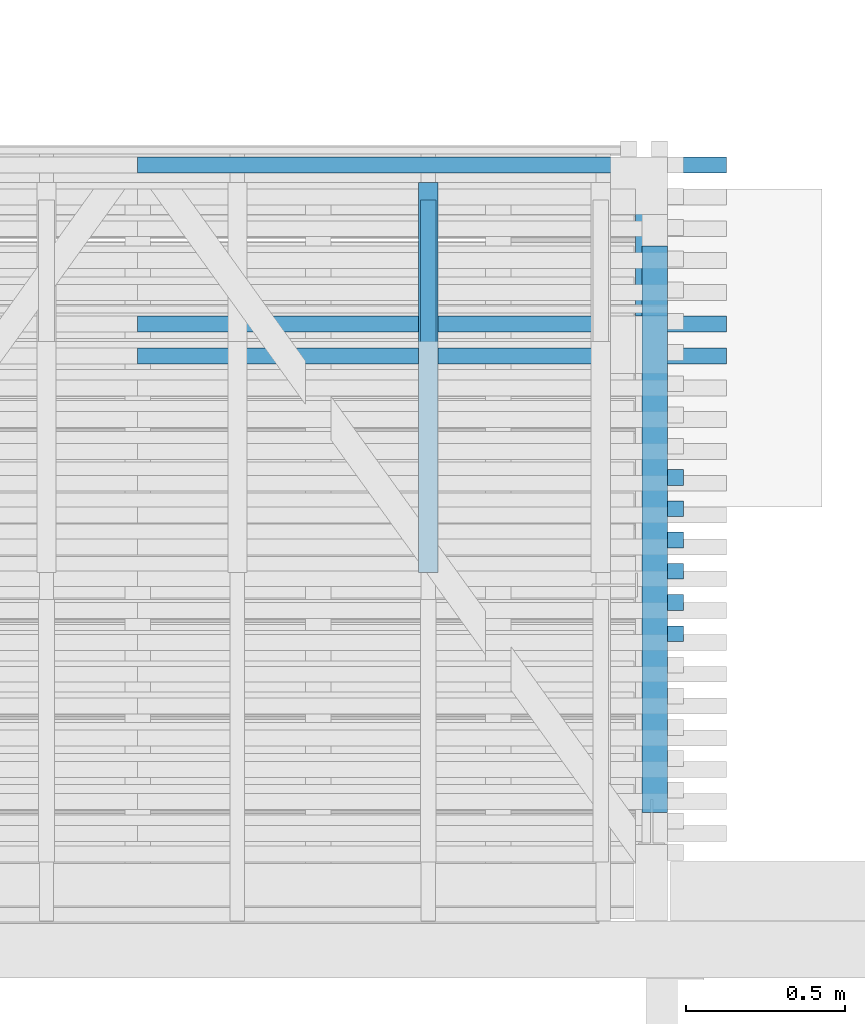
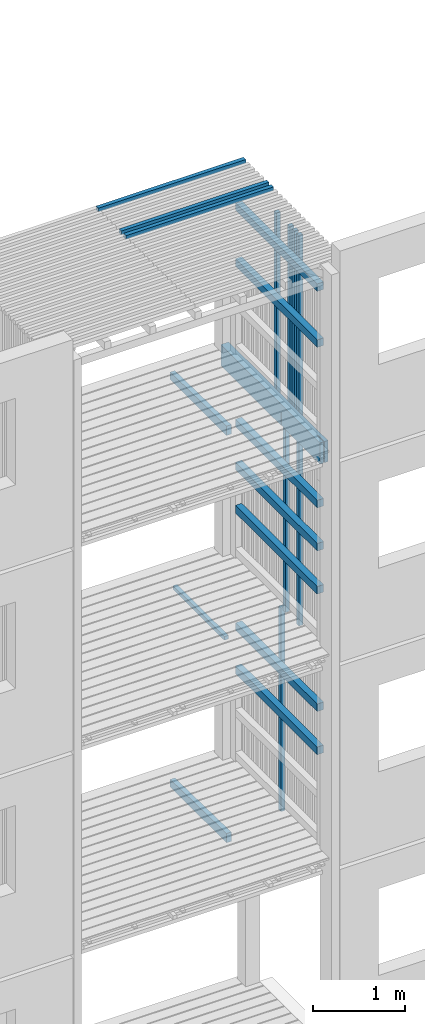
# One storey, part 104 of 182: 21 beams.
"""IFC2X3 building model written with IfcOpenShell, lengths in metres."""

from ifc_helpers import new_model, si_unit, frame, origin, place, context, project, spatial, faceted_brep, element, save


model = new_model("IFC2X3")

# Units and contexts
model_context = context("Model", 3, precision=1e-06, world=origin())
ifc_project = project(units=[si_unit("LENGTHUNIT", "METRE"), si_unit("PLANEANGLEUNIT", "RADIAN")], contexts=[model_context])

# Site, building, storey
site = spatial("IfcSite", under=ifc_project, CompositionType="ELEMENT")
building = spatial("IfcBuilding", under=site, CompositionType="ELEMENT")
storey = spatial("IfcBuildingStorey", under=building, Name="vs", CompositionType="ELEMENT", Elevation=-0.85)

# Beams
placement = place(None, origin())
beam_1_placement = place(placement, frame((46.37040135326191, 5.772350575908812, 7.974999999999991), z_axis=(-1.0, 0.0, 0.0), x_axis=(0.0, 0.0, 1.0)))
element("IfcBeam", 1, at=beam_1_placement, inside=storey, Name="Bardage", context=model_context, shape_type="Brep", body=[
    faceted_brep([(2.479999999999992, -0.024999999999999, 0.024999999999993), (2.479999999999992, -0.024999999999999, -0.025000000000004), (2.479999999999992, 0.024999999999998, -0.025000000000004), (2.479999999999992, 0.024999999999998, 0.024999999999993), (0.0, 0.024999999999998, 0.024999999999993), (0.0, -0.024999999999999, 0.024999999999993), (2.479999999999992, -0.024999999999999, 0.024999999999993), (2.479999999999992, 0.024999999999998, 0.024999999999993), (0.0, -0.024999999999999, 0.024999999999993), (0.0, 0.024999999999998, 0.024999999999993), (0.0, 0.024999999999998, -0.025000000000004), (0.0, -0.024999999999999, -0.025000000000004), (0.0, 0.024999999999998, -0.025000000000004), (0.0, 0.024999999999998, 0.024999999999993), (2.479999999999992, 0.024999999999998, 0.024999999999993), (2.479999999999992, 0.024999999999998, -0.025000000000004), (0.0, -0.024999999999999, -0.025000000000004), (0.0, 0.024999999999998, -0.025000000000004), (2.479999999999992, 0.024999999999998, -0.025000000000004), (2.479999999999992, -0.024999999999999, -0.025000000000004), (2.479999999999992, -0.024999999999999, 0.024999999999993), (0.0, -0.024999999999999, 0.024999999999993), (0.0, -0.024999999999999, -0.025000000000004), (2.479999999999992, -0.024999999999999, -0.025000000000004)], [[[0, 1, 2, 3]], [[4, 5, 6, 7]], [[8, 9, 10, 11]], [[12, 13, 14, 15]], [[16, 17, 18, 19]], [[20, 21, 22, 23]]]),
])
beam_2_placement = place(placement, frame((46.30540135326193, 5.210077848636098, 7.24374999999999), z_axis=(0.0, 0.0, 1.0), x_axis=(0.0, 1.0, 0.0)))
element("IfcBeam", 2, at=beam_2_placement, inside=storey, Name="Support bardage", context=model_context, shape_type="Brep", body=[
    faceted_brep([(1.779999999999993, -0.039999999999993, 0.050000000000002), (1.779999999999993, -0.039999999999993, -0.049999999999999), (1.779999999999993, 0.04000000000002, -0.049999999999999), (1.779999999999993, 0.04000000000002, 0.050000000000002), (-4e-15, -0.039999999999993, -0.049999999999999), (1.779999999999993, -0.039999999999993, -0.049999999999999), (1.779999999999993, -0.039999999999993, 0.050000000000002), (-4e-15, -0.039999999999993, 0.050000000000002), (-4e-15, 0.04000000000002, -0.049999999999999), (1.779999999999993, 0.04000000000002, -0.049999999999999), (1.779999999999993, -0.039999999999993, -0.049999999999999), (-4e-15, -0.039999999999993, -0.049999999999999), (-4e-15, 0.04000000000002, 0.050000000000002), (1.779999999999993, 0.04000000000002, 0.050000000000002), (1.779999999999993, 0.04000000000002, -0.049999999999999), (-4e-15, 0.04000000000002, -0.049999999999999), (-4e-15, -0.039999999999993, 0.050000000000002), (1.779999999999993, -0.039999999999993, 0.050000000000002), (1.779999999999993, 0.04000000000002, 0.050000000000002), (-4e-15, 0.04000000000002, 0.050000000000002), (-4e-15, -0.039999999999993, -0.049999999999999), (-4e-15, -0.039999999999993, 0.050000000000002), (-4e-15, 0.04000000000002, 0.050000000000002), (-4e-15, 0.04000000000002, -0.049999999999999)], [[[0, 1, 2, 3]], [[4, 5, 6, 7]], [[8, 9, 10, 11]], [[12, 13, 14, 15]], [[16, 17, 18, 19]], [[20, 21, 22, 23]]]),
])
beam_3_placement = place(placement, frame((46.2954013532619, 5.115077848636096, 7.979999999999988), z_axis=(0.0, 0.0, 1.0), x_axis=(0.0, 1.0, 0.0)))
element("IfcBeam", 3, at=beam_3_placement, inside=storey, Name="Sommier", context=model_context, shape_type="Brep", body=[
    faceted_brep([(2.154999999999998, -0.050000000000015, -0.14), (2.154999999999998, -0.050000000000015, 0.140000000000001), (0.0, -0.050000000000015, 0.140000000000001), (0.0, -0.050000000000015, -0.14), (-4e-15, -0.004000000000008, 0.140000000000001), (0.0, -0.050000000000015, 0.140000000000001), (2.154999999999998, -0.050000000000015, 0.140000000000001), (2.154999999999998, 0.049999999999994, 0.140000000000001), (0.0, 0.049999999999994, 0.140000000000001), (-4e-15, 0.003999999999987, 0.140000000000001), (0.136999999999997, 0.003999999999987, 0.140000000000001), (0.136999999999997, -0.004000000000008, 0.140000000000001), (2.154999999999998, 0.049999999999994, 0.140000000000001), (2.154999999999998, -0.050000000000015, 0.140000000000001), (2.154999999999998, -0.050000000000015, -0.14), (2.154999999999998, 0.049999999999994, -0.14), (0.847999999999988, 0.044999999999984, -0.14), (0.771999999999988, 0.044999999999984, -0.14), (0.771999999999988, 0.044999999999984, 0.035000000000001), (0.847999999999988, 0.044999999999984, 0.035000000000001), (0.847999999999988, 0.044999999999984, 0.035000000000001), (0.771999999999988, 0.044999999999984, 0.035000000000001), (0.771999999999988, 0.049999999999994, 0.035000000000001), (0.847999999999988, 0.049999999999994, 0.035000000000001), (0.847999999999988, 0.049999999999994, -0.14), (0.847999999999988, 0.044999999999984, -0.14), (0.847999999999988, 0.044999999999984, 0.035000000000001), (0.847999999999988, 0.049999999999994, 0.035000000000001), (0.771999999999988, 0.044999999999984, 0.035000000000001), (0.771999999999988, 0.044999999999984, -0.14), (0.771999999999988, 0.049999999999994, -0.14), (0.771999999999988, 0.049999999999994, 0.035000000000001), (0.0, 0.049999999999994, 0.140000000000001), (2.154999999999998, 0.049999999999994, 0.140000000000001), (2.154999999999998, 0.049999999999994, -0.14), (0.847999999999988, 0.049999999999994, -0.14), (0.847999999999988, 0.049999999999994, 0.035000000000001), (0.771999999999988, 0.049999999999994, 0.035000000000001), (0.771999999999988, 0.049999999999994, -0.14), (0.0, 0.049999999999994, -0.14), (0.0, 0.003999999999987, -0.14), (-4e-15, 0.003999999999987, 0.140000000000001), (0.0, 0.049999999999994, 0.140000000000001), (0.0, 0.049999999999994, -0.14), (0.0, -0.050000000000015, 0.140000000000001), (-4e-15, -0.004000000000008, 0.140000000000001), (0.0, -0.004000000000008, -0.14), (0.0, -0.050000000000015, -0.14), (0.0, 0.049999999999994, -0.14), (0.771999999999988, 0.049999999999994, -0.14), (0.771999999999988, 0.044999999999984, -0.14), (0.847999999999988, 0.044999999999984, -0.14), (0.847999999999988, 0.049999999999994, -0.14), (2.154999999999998, 0.049999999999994, -0.14), (2.154999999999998, -0.050000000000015, -0.14), (0.0, -0.050000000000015, -0.14), (0.0, -0.004000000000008, -0.14), (0.136999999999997, -0.004000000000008, -0.14), (0.136999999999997, 0.003999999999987, -0.14), (0.0, 0.003999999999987, -0.14), (0.136999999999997, 0.003999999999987, -0.14), (0.136999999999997, -0.004000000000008, -0.14), (0.136999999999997, -0.004000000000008, 0.140000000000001), (0.136999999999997, 0.003999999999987, 0.140000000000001), (-4e-15, -0.004000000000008, 0.140000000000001), (0.136999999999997, -0.004000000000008, 0.140000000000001), (0.136999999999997, -0.004000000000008, -0.14), (0.0, -0.004000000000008, -0.14), (0.136999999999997, 0.003999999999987, 0.140000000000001), (-4e-15, 0.003999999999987, 0.140000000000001), (0.0, 0.003999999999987, -0.14), (0.136999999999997, 0.003999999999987, -0.14)], [[[0, 1, 2, 3]], [[4, 5, 6, 7, 8, 9, 10, 11]], [[12, 13, 14, 15]], [[16, 17, 18, 19]], [[20, 21, 22, 23]], [[24, 25, 26, 27]], [[28, 29, 30, 31]], [[32, 33, 34, 35, 36, 37, 38, 39]], [[40, 41, 42, 43]], [[44, 45, 46, 47]], [[48, 49, 50, 51, 52, 53, 54, 55, 56, 57, 58, 59]], [[60, 61, 62, 63]], [[64, 65, 66, 67]], [[68, 69, 70, 71]]]),
])
for number, where, z_axis, x_axis in (
    (4, (46.37040135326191, 6.263259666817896, 7.974999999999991), (-1.0, 0.0, 0.0), (0.0, 0.0, 1.0)),
    (5, (46.37040135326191, 5.968714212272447, 7.974999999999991), (-1.0, 0.0, 0.0), (0.0, 0.0, 1.0)),
):
    element("IfcBeam", number, at=place(placement, frame(where, z_axis=z_axis, x_axis=x_axis)), inside=storey, Name="Bardage", context=model_context, shape_type="Brep", body=[
        faceted_brep([(2.479999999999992, -0.024999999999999, 0.024999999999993), (2.479999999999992, -0.024999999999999, -0.025000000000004), (2.479999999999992, 0.024999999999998, -0.025000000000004), (2.479999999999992, 0.024999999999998, 0.024999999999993), (0.0, 0.024999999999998, 0.024999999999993), (0.0, -0.024999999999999, 0.024999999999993), (2.479999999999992, -0.024999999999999, 0.024999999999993), (2.479999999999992, 0.024999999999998, 0.024999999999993), (0.0, -0.024999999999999, 0.024999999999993), (0.0, 0.024999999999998, 0.024999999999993), (0.0, 0.024999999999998, -0.025000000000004), (0.0, -0.024999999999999, -0.025000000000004), (0.0, 0.024999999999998, -0.025000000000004), (0.0, 0.024999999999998, 0.024999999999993), (2.479999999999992, 0.024999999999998, 0.024999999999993), (2.479999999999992, 0.024999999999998, -0.025000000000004), (0.0, -0.024999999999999, -0.025000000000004), (0.0, 0.024999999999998, -0.025000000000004), (2.479999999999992, 0.024999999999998, -0.025000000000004), (2.479999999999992, -0.024999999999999, -0.025000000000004), (2.479999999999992, -0.024999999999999, 0.024999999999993), (0.0, -0.024999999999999, 0.024999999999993), (0.0, -0.024999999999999, -0.025000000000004), (2.479999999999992, -0.024999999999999, -0.025000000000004)], [[[0, 1, 2, 3]], [[4, 5, 6, 7]], [[8, 9, 10, 11]], [[12, 13, 14, 15]], [[16, 17, 18, 19]], [[20, 21, 22, 23]]]),
    ])
beam_4_placement = place(placement, frame((46.37040135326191, 6.165077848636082, 2.575000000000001), z_axis=(-1.0, 0.0, 0.0), x_axis=(0.0, 0.0, 1.0)))
element("IfcBeam", 6, at=beam_4_placement, inside=storey, Name="Bardage", context=model_context, shape_type="Brep", body=[
    faceted_brep([(0.0, -0.025000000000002, 0.024999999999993), (0.0, 0.024999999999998, 0.024999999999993), (0.0, 0.024999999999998, -0.025000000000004), (0.0, -0.025000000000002, -0.025000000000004), (2.699961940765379, 0.024999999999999, -0.025000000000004), (2.699961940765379, 0.024999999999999, 0.024999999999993), (2.699961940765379, -0.025000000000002, 0.024999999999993), (2.699961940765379, -0.025000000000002, -0.025000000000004), (0.0, -0.025000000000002, -0.025000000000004), (0.0, 0.024999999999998, -0.025000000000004), (2.699961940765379, 0.024999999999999, -0.025000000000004), (2.699961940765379, -0.025000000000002, -0.025000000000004), (2.699961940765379, 0.024999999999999, -0.025000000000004), (0.0, 0.024999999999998, -0.025000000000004), (0.0, 0.024999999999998, 0.024999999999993), (2.699961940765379, 0.024999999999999, 0.024999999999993), (2.699961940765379, 0.024999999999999, 0.024999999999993), (0.0, 0.024999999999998, 0.024999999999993), (0.0, -0.025000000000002, 0.024999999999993), (2.699961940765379, -0.025000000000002, 0.024999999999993), (2.699961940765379, -0.025000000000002, 0.024999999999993), (0.0, -0.025000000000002, 0.024999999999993), (0.0, -0.025000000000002, -0.025000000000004), (2.699961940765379, -0.025000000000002, -0.025000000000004)], [[[0, 1, 2, 3]], [[4, 5, 6, 7]], [[8, 9, 10, 11]], [[12, 13, 14, 15]], [[16, 17, 18, 19]], [[20, 21, 22, 23]]]),
])
beam_5_placement = place(placement, frame((46.37040135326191, 5.870532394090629, 7.974999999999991), z_axis=(-1.0, 0.0, 0.0), x_axis=(0.0, 0.0, 1.0)))
element("IfcBeam", 7, at=beam_5_placement, inside=storey, Name="Bardage", context=model_context, shape_type="Brep", body=[
    faceted_brep([(2.479999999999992, -0.025000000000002, 0.024999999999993), (2.479999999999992, -0.025000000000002, -0.025000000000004), (2.479999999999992, 0.025000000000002, -0.025000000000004), (2.479999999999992, 0.025000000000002, 0.024999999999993), (0.0, 0.025000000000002, 0.024999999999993), (0.0, -0.025000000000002, 0.024999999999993), (2.479999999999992, -0.025000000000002, 0.024999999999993), (2.479999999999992, 0.025000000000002, 0.024999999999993), (0.0, -0.025000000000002, 0.024999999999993), (0.0, 0.025000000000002, 0.024999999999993), (0.0, 0.025000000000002, -0.025000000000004), (0.0, -0.025000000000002, -0.025000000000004), (0.0, 0.025000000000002, -0.025000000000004), (0.0, 0.025000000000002, 0.024999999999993), (2.479999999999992, 0.025000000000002, 0.024999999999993), (2.479999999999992, 0.025000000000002, -0.025000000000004), (0.0, -0.025000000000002, -0.025000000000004), (0.0, 0.025000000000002, -0.025000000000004), (2.479999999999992, 0.025000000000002, -0.025000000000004), (2.479999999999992, -0.025000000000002, -0.025000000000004), (2.479999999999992, -0.025000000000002, 0.024999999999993), (0.0, -0.025000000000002, 0.024999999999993), (0.0, -0.025000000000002, -0.025000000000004), (2.479999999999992, -0.025000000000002, -0.025000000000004)], [[[0, 1, 2, 3]], [[4, 5, 6, 7]], [[8, 9, 10, 11]], [[12, 13, 14, 15]], [[16, 17, 18, 19]], [[20, 21, 22, 23]]]),
])
beam_6_placement = place(placement, frame((46.30540135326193, 5.210077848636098, 3.972499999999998), z_axis=(0.0, 0.0, 1.0), x_axis=(0.0, 1.0, 0.0)))
element("IfcBeam", 8, at=beam_6_placement, inside=storey, Name="Support bardage", context=model_context, shape_type="Brep", body=[
    faceted_brep([(1.779999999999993, -0.039999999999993, 0.050000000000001), (1.779999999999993, -0.039999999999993, -0.050000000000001), (1.779999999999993, 0.04000000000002, -0.050000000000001), (1.779999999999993, 0.04000000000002, 0.050000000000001), (-4e-15, -0.039999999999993, -0.050000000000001), (1.779999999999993, -0.039999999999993, -0.050000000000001), (1.779999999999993, -0.039999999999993, 0.050000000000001), (-4e-15, -0.039999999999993, 0.050000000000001), (-4e-15, 0.04000000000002, -0.050000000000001), (1.779999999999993, 0.04000000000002, -0.050000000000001), (1.779999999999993, -0.039999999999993, -0.050000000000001), (-4e-15, -0.039999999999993, -0.050000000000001), (-4e-15, 0.04000000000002, 0.050000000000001), (1.779999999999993, 0.04000000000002, 0.050000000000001), (1.779999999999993, 0.04000000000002, -0.050000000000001), (-4e-15, 0.04000000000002, -0.050000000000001), (-4e-15, -0.039999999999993, 0.050000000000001), (1.779999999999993, -0.039999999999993, 0.050000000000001), (1.779999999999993, 0.04000000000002, 0.050000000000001), (-4e-15, 0.04000000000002, 0.050000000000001), (-4e-15, -0.039999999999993, -0.050000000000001), (-4e-15, -0.039999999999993, 0.050000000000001), (-4e-15, 0.04000000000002, 0.050000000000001), (-4e-15, 0.04000000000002, -0.050000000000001)], [[[0, 1, 2, 3]], [[4, 5, 6, 7]], [[8, 9, 10, 11]], [[12, 13, 14, 15]], [[16, 17, 18, 19]], [[20, 21, 22, 23]]]),
])
beam_7_placement = place(placement, frame((46.37040135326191, 6.066896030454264, 5.274999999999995), z_axis=(-1.0, 0.0, 0.0), x_axis=(0.0, 0.0, 1.0)))
element("IfcBeam", 9, at=beam_7_placement, inside=storey, Name="Bardage", context=model_context, shape_type="Brep", body=[
    faceted_brep([(1e-15, -0.025000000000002, 0.024999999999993), (1e-15, 0.024999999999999, 0.024999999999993), (1e-15, 0.024999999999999, -0.025000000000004), (1e-15, -0.025000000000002, -0.025000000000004), (2.699999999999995, -0.025000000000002, -0.025000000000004), (2.699999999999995, 0.024999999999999, -0.025000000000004), (2.699999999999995, 0.024999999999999, 0.024999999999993), (2.699999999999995, -0.025000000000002, 0.024999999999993), (1e-15, -0.025000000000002, 0.024999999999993), (1e-15, -0.025000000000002, -0.025000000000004), (2.699999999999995, -0.025000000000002, -0.025000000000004), (2.699999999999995, -0.025000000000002, 0.024999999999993), (2.699999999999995, -0.025000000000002, -0.025000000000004), (1e-15, -0.025000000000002, -0.025000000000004), (1e-15, 0.024999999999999, -0.025000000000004), (2.699999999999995, 0.024999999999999, -0.025000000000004), (2.699999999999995, 0.024999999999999, -0.025000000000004), (1e-15, 0.024999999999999, -0.025000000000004), (1e-15, 0.024999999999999, 0.024999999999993), (2.699999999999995, 0.024999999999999, 0.024999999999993), (2.699999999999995, 0.024999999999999, 0.024999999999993), (1e-15, 0.024999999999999, 0.024999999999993), (1e-15, -0.025000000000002, 0.024999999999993), (2.699999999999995, -0.025000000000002, 0.024999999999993)], [[[0, 1, 2, 3]], [[4, 5, 6, 7]], [[8, 9, 10, 11]], [[12, 13, 14, 15]], [[16, 17, 18, 19]], [[20, 21, 22, 23]]]),
])
beam_8_placement = place(placement, frame((46.30540135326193, 5.210077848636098, 10.114999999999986), z_axis=(0.0, 0.0, 1.0), x_axis=(0.0, 1.0, 0.0)))
element("IfcBeam", 10, at=beam_8_placement, inside=storey, Name="Support bardage", context=model_context, shape_type="Brep", body=[
    faceted_brep([(1.779999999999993, -0.039999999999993, 0.050000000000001), (1.779999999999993, -0.039999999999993, -0.050000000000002), (1.779999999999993, 0.04000000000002, -0.050000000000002), (1.779999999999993, 0.04000000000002, 0.050000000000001), (-4e-15, -0.039999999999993, -0.050000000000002), (1.779999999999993, -0.039999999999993, -0.050000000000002), (1.779999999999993, -0.039999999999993, 0.050000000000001), (-4e-15, -0.039999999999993, 0.050000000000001), (-4e-15, 0.04000000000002, -0.050000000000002), (1.779999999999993, 0.04000000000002, -0.050000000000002), (1.779999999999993, -0.039999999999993, -0.050000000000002), (-4e-15, -0.039999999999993, -0.050000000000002), (-4e-15, 0.04000000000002, 0.050000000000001), (1.779999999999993, 0.04000000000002, 0.050000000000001), (1.779999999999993, 0.04000000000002, -0.050000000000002), (-4e-15, 0.04000000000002, -0.050000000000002), (-4e-15, -0.039999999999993, 0.050000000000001), (1.779999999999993, -0.039999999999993, 0.050000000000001), (1.779999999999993, 0.04000000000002, 0.050000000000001), (-4e-15, 0.04000000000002, 0.050000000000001), (-4e-15, -0.039999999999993, -0.050000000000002), (-4e-15, -0.039999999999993, 0.050000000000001), (-4e-15, 0.04000000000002, 0.050000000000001), (-4e-15, 0.04000000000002, -0.050000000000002)], [[[0, 1, 2, 3]], [[4, 5, 6, 7]], [[8, 9, 10, 11]], [[12, 13, 14, 15]], [[16, 17, 18, 19]], [[20, 21, 22, 23]]]),
])
for number, where, z_axis, x_axis, name in (
    (11, (46.30540135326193, 5.210077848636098, 6.672499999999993), (0.0, 0.0, 1.0), (0.0, 1.0, 0.0), "Support bardage"),
    (12, (46.30540135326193, 5.210077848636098, 6.101249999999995), (0.0, 0.0, 1.0), (0.0, 1.0, 0.0), "Support bardage"),
):
    element("IfcBeam", number, at=place(placement, frame(where, z_axis=z_axis, x_axis=x_axis)), inside=storey, Name=name, context=model_context, shape_type="Brep", body=[
        faceted_brep([(1.779999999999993, -0.039999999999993, 0.050000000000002), (1.779999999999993, -0.039999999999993, -0.05), (1.779999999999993, 0.04000000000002, -0.05), (1.779999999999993, 0.04000000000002, 0.050000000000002), (-4e-15, -0.039999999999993, -0.05), (1.779999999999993, -0.039999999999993, -0.05), (1.779999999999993, -0.039999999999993, 0.050000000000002), (-4e-15, -0.039999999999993, 0.050000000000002), (-4e-15, 0.04000000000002, -0.05), (1.779999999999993, 0.04000000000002, -0.05), (1.779999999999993, -0.039999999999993, -0.05), (-4e-15, -0.039999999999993, -0.05), (-4e-15, 0.04000000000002, 0.050000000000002), (1.779999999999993, 0.04000000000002, 0.050000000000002), (1.779999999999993, 0.04000000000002, -0.05), (-4e-15, 0.04000000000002, -0.05), (-4e-15, -0.039999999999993, 0.050000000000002), (1.779999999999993, -0.039999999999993, 0.050000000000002), (1.779999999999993, 0.04000000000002, 0.050000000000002), (-4e-15, 0.04000000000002, 0.050000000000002), (-4e-15, -0.039999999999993, -0.05), (-4e-15, -0.039999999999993, 0.050000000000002), (-4e-15, 0.04000000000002, 0.050000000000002), (-4e-15, 0.04000000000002, -0.05)], [[[0, 1, 2, 3]], [[4, 5, 6, 7]], [[8, 9, 10, 11]], [[12, 13, 14, 15]], [[16, 17, 18, 19]], [[20, 21, 22, 23]]]),
    ])
for number, where, z_axis, x_axis, name in (
    (13, (46.30540135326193, 5.210077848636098, 4.543749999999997), (0.0, 0.0, 1.0), (0.0, 1.0, 0.0), "Support bardage"),
    (14, (46.30540135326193, 5.210077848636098, 9.37249999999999), (0.0, 0.0, 1.0), (0.0, 1.0, 0.0), "Support bardage"),
):
    element("IfcBeam", number, at=place(placement, frame(where, z_axis=z_axis, x_axis=x_axis)), inside=storey, Name=name, context=model_context, shape_type="Brep", body=[
        faceted_brep([(1.779999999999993, -0.039999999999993, 0.050000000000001), (1.779999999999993, -0.039999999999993, -0.050000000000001), (1.779999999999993, 0.04000000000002, -0.050000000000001), (1.779999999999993, 0.04000000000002, 0.050000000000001), (-4e-15, -0.039999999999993, -0.050000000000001), (1.779999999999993, -0.039999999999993, -0.050000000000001), (1.779999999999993, -0.039999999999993, 0.050000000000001), (-4e-15, -0.039999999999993, 0.050000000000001), (-4e-15, 0.04000000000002, -0.050000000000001), (1.779999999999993, 0.04000000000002, -0.050000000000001), (1.779999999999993, -0.039999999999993, -0.050000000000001), (-4e-15, -0.039999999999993, -0.050000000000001), (-4e-15, 0.04000000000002, 0.050000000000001), (1.779999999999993, 0.04000000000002, 0.050000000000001), (1.779999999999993, 0.04000000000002, -0.050000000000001), (-4e-15, 0.04000000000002, -0.050000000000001), (-4e-15, -0.039999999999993, 0.050000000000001), (1.779999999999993, -0.039999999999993, 0.050000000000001), (1.779999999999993, 0.04000000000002, 0.050000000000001), (-4e-15, 0.04000000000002, 0.050000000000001), (-4e-15, -0.039999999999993, -0.050000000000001), (-4e-15, -0.039999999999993, 0.050000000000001), (-4e-15, 0.04000000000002, 0.050000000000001), (-4e-15, 0.04000000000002, -0.050000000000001)], [[[0, 1, 2, 3]], [[4, 5, 6, 7]], [[8, 9, 10, 11]], [[12, 13, 14, 15]], [[16, 17, 18, 19]], [[20, 21, 22, 23]]]),
    ])
beam_9_placement = place(placement, frame((46.37040135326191, 5.772350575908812, 5.274999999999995), z_axis=(-1.0, 0.0, 0.0), x_axis=(0.0, 0.0, 1.0)))
element("IfcBeam", 15, at=beam_9_placement, inside=storey, Name="Bardage", context=model_context, shape_type="Brep", body=[
    faceted_brep([(1e-15, -0.024999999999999, 0.024999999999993), (1e-15, 0.024999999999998, 0.024999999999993), (1e-15, 0.024999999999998, -0.025000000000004), (1e-15, -0.024999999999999, -0.025000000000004), (2.699999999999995, -0.024999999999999, -0.025000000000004), (2.699999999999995, 0.024999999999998, -0.025000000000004), (2.699999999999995, 0.024999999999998, 0.024999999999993), (2.699999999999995, -0.024999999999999, 0.024999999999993), (1e-15, -0.024999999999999, 0.024999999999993), (1e-15, -0.024999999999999, -0.025000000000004), (2.699999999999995, -0.024999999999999, -0.025000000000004), (2.699999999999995, -0.024999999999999, 0.024999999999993), (2.699999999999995, -0.024999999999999, -0.025000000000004), (1e-15, -0.024999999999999, -0.025000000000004), (1e-15, 0.024999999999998, -0.025000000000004), (2.699999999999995, 0.024999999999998, -0.025000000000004), (2.699999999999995, 0.024999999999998, -0.025000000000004), (1e-15, 0.024999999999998, -0.025000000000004), (1e-15, 0.024999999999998, 0.024999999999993), (2.699999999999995, 0.024999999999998, 0.024999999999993), (2.699999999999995, 0.024999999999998, 0.024999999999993), (1e-15, 0.024999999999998, 0.024999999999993), (1e-15, -0.024999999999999, 0.024999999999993), (2.699999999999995, -0.024999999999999, 0.024999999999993)], [[[0, 1, 2, 3]], [[4, 5, 6, 7]], [[8, 9, 10, 11]], [[12, 13, 14, 15]], [[16, 17, 18, 19]], [[20, 21, 22, 23]]]),
])
beam_10_placement = place(placement, frame((45.593401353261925, 7.135077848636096, 5.217399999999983), z_axis=(0.0, 0.0, 1.0), x_axis=(0.0, -1.0, 0.0)))
element("IfcBeam", 16, at=beam_10_placement, inside=storey, Name="Calage", context=model_context, shape_type="Brep", body=[
    faceted_brep([(0.0, -0.025000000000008, -0.025), (0.0, -0.025000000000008, 0.024999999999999), (0.0, 0.024999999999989, 0.024999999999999), (0.0, 0.024999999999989, -0.025), (1.115000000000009, 0.024999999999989, 0.024999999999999), (1.115000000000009, -0.025000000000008, 0.024999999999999), (1.115000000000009, -0.025000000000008, -0.025), (1.115000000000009, 0.024999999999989, -0.025), (0.0, 0.024999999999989, 0.024999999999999), (0.0, -0.025000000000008, 0.024999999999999), (1.115000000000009, -0.025000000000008, 0.024999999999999), (1.115000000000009, 0.024999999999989, 0.024999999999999), (1.115000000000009, -0.025000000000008, 0.024999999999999), (0.0, -0.025000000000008, 0.024999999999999), (0.0, -0.025000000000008, -0.025), (1.115000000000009, -0.025000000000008, -0.025), (1.115000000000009, -0.025000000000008, -0.025), (0.0, -0.025000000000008, -0.025), (0.0, 0.024999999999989, -0.025), (1.115000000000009, 0.024999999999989, -0.025), (1.115000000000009, 0.024999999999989, -0.025), (0.0, 0.024999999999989, -0.025), (0.0, 0.024999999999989, 0.024999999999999), (1.115000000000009, 0.024999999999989, 0.024999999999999)], [[[0, 1, 2, 3]], [[4, 5, 6, 7]], [[8, 9, 10, 11]], [[12, 13, 14, 15]], [[16, 17, 18, 19]], [[20, 21, 22, 23]]]),
])
beam_11_placement = place(placement, frame((45.59340135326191, 5.965077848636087, 2.604249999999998), z_axis=(0.0, 0.0, 1.0), x_axis=(0.0, 1.0, 0.0)))
element("IfcBeam", 17, at=beam_11_placement, inside=storey, Name="Solive", context=model_context, shape_type="Brep", body=[
    faceted_brep([(0.0, -0.029999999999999, -0.06185), (1.225000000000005, -0.029999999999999, -0.06185), (1.225000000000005, -0.029999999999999, 0.037349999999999), (0.0, -0.029999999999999, 0.06185), (0.0, 0.030000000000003, -0.06185), (1.225000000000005, 0.029999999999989, -0.06185), (1.225000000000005, -0.029999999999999, -0.06185), (0.0, -0.029999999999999, -0.06185), (0.0, 0.030000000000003, 0.06185), (0.0, 0.030000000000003, -0.06185), (0.0, -0.029999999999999, -0.06185), (0.0, -0.029999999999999, 0.06185), (1.225000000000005, 0.029999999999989, -0.06185), (0.0, 0.030000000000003, -0.06185), (0.0, 0.030000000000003, 0.06185), (1.225000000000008, 0.029999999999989, 0.03735), (1.225000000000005, -0.029999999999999, 0.037349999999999), (1.225000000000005, -0.029999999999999, -0.06185), (1.225000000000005, 0.029999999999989, -0.06185), (1.225000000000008, 0.029999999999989, 0.03735), (0.0, -0.029999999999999, 0.06185), (1.225000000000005, -0.029999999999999, 0.037349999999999), (1.225000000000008, 0.029999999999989, 0.03735), (0.0, 0.030000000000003, 0.06185)], [[[0, 1, 2, 3]], [[4, 5, 6, 7]], [[8, 9, 10, 11]], [[12, 13, 14, 15]], [[16, 17, 18, 19]], [[20, 21, 22, 23]]]),
])
beam_12_placement = place(placement, frame((46.53040135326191, 7.24507784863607, 10.47999999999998), z_axis=(0.0, 0.0, 1.0), x_axis=(-1.0, 0.0, 0.0)))
element("IfcBeam", 18, at=beam_12_placement, inside=storey, Name="Bardage", context=model_context, shape_type="Brep", body=[
    faceted_brep([(-3e-15, 0.025000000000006, 0.025000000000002), (-3e-15, -0.024999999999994, 0.025000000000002), (1.849999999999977, -0.024999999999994, 0.025000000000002), (1.849999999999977, 0.025000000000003, 0.025000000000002), (1.849999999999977, -0.024999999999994, 0.025000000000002), (-3e-15, -0.024999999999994, 0.025000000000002), (-3e-15, -0.024999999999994, -0.024999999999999), (1.849999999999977, -0.024999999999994, -0.024999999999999), (-3e-15, -0.024999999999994, 0.025000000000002), (-3e-15, 0.025000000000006, 0.025000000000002), (-3e-15, 0.025000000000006, -0.024999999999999), (-3e-15, -0.024999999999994, -0.024999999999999), (-3e-15, 0.025000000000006, -0.024999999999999), (-3e-15, 0.025000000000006, 0.025000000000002), (1.849999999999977, 0.025000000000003, 0.025000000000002), (1.849999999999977, 0.025000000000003, -0.024999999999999), (1.849999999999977, -0.024999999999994, -0.024999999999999), (-3e-15, -0.024999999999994, -0.024999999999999), (-3e-15, 0.025000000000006, -0.024999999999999), (1.849999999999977, 0.025000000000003, -0.024999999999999), (1.849999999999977, -0.024999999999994, 0.025000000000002), (1.849999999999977, -0.024999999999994, -0.024999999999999), (1.849999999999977, 0.025000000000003, -0.024999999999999), (1.849999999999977, 0.025000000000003, 0.025000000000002)], [[[0, 1, 2, 3]], [[4, 5, 6, 7]], [[8, 9, 10, 11]], [[12, 13, 14, 15]], [[16, 17, 18, 19]], [[20, 21, 22, 23]]]),
])
beam_13_placement = place(placement, frame((45.59340135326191, 5.965077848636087, 8.00424999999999), z_axis=(0.0, 0.0, 1.0), x_axis=(1.2e-14, 1.0, 0.0)))
element("IfcBeam", 19, at=beam_13_placement, inside=storey, Name="Solive", context=model_context, shape_type="Brep", body=[
    faceted_brep([(0.0, -0.029999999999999, -0.061849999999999), (1.225000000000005, -0.029999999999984, -0.061849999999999), (1.225000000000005, -0.029999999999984, 0.037349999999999), (0.0, -0.029999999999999, 0.061849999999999), (-1e-15, 0.030000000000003, -0.061849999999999), (1.225000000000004, 0.030000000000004, -0.061849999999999), (1.225000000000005, -0.029999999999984, -0.061849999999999), (0.0, -0.029999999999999, -0.061849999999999), (-1e-15, 0.030000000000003, 0.061850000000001), (-1e-15, 0.030000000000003, -0.061849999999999), (0.0, -0.029999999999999, -0.061849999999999), (0.0, -0.029999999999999, 0.061849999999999), (1.225000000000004, 0.030000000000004, -0.061849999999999), (-1e-15, 0.030000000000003, -0.061849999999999), (-1e-15, 0.030000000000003, 0.061850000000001), (1.225000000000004, 0.030000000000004, 0.037349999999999), (1.225000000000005, -0.029999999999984, 0.037349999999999), (1.225000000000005, -0.029999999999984, -0.061849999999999), (1.225000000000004, 0.030000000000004, -0.061849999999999), (1.225000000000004, 0.030000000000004, 0.037349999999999), (0.0, -0.029999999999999, 0.061849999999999), (1.225000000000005, -0.029999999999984, 0.037349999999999), (1.225000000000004, 0.030000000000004, 0.037349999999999), (-1e-15, 0.030000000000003, 0.061850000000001)], [[[0, 1, 2, 3]], [[4, 5, 6, 7]], [[8, 9, 10, 11]], [[12, 13, 14, 15]], [[16, 17, 18, 19]], [[20, 21, 22, 23]]]),
])
beam_14_placement = place(placement, frame((46.53040135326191, 6.645077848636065, 10.47999999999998), z_axis=(0.0, 0.0, 1.0), x_axis=(-1.0, 0.0, 0.0)))
element("IfcBeam", 20, at=beam_14_placement, inside=storey, Name="Bardage", context=model_context, shape_type="Brep", body=[
    faceted_brep([(-3e-15, 0.024999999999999, 0.025000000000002), (-3e-15, -0.024999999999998, 0.025000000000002), (1.849999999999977, -0.024999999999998, 0.025000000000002), (1.849999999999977, 0.024999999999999, 0.025000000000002), (1.849999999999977, -0.024999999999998, 0.025000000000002), (-3e-15, -0.024999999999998, 0.025000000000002), (-3e-15, -0.024999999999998, -0.024999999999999), (1.849999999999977, -0.024999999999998, -0.024999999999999), (-3e-15, -0.024999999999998, 0.025000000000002), (-3e-15, 0.024999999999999, 0.025000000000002), (-3e-15, 0.024999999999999, -0.024999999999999), (-3e-15, -0.024999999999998, -0.024999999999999), (-3e-15, 0.024999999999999, -0.024999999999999), (-3e-15, 0.024999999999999, 0.025000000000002), (1.849999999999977, 0.024999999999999, 0.025000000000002), (1.849999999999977, 0.024999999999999, -0.024999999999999), (1.849999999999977, -0.024999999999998, -0.024999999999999), (-3e-15, -0.024999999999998, -0.024999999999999), (-3e-15, 0.024999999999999, -0.024999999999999), (1.849999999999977, 0.024999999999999, -0.024999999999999), (1.849999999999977, -0.024999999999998, 0.025000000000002), (1.849999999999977, -0.024999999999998, -0.024999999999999), (1.849999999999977, 0.024999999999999, -0.024999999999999), (1.849999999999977, 0.024999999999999, 0.025000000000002)], [[[0, 1, 2, 3]], [[4, 5, 6, 7]], [[8, 9, 10, 11]], [[12, 13, 14, 15]], [[16, 17, 18, 19]], [[20, 21, 22, 23]]]),
])
beam_15_placement = place(placement, frame((46.53040135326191, 6.74507784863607, 10.47999999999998), z_axis=(0.0, 0.0, 1.0), x_axis=(-1.0, 0.0, 0.0)))
element("IfcBeam", 21, at=beam_15_placement, inside=storey, Name="Bardage", context=model_context, shape_type="Brep", body=[
    faceted_brep([(-3e-15, 0.025000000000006, 0.025000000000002), (-3e-15, -0.024999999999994, 0.025000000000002), (1.849999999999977, -0.024999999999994, 0.025000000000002), (1.849999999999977, 0.025000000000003, 0.025000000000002), (1.849999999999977, -0.024999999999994, 0.025000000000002), (-3e-15, -0.024999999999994, 0.025000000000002), (-3e-15, -0.024999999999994, -0.024999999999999), (1.849999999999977, -0.024999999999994, -0.024999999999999), (-3e-15, -0.024999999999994, 0.025000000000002), (-3e-15, 0.025000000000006, 0.025000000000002), (-3e-15, 0.025000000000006, -0.024999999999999), (-3e-15, -0.024999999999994, -0.024999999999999), (-3e-15, 0.025000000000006, -0.024999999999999), (-3e-15, 0.025000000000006, 0.025000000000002), (1.849999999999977, 0.025000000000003, 0.025000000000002), (1.849999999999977, 0.025000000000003, -0.024999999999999), (1.849999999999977, -0.024999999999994, -0.024999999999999), (-3e-15, -0.024999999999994, -0.024999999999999), (-3e-15, 0.025000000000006, -0.024999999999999), (1.849999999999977, 0.025000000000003, -0.024999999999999), (1.849999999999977, -0.024999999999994, 0.025000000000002), (1.849999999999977, -0.024999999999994, -0.024999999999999), (1.849999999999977, 0.025000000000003, -0.024999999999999), (1.849999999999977, 0.025000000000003, 0.025000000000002)], [[[0, 1, 2, 3]], [[4, 5, 6, 7]], [[8, 9, 10, 11]], [[12, 13, 14, 15]], [[16, 17, 18, 19]], [[20, 21, 22, 23]]]),
])

save(model, "model.ifc")
